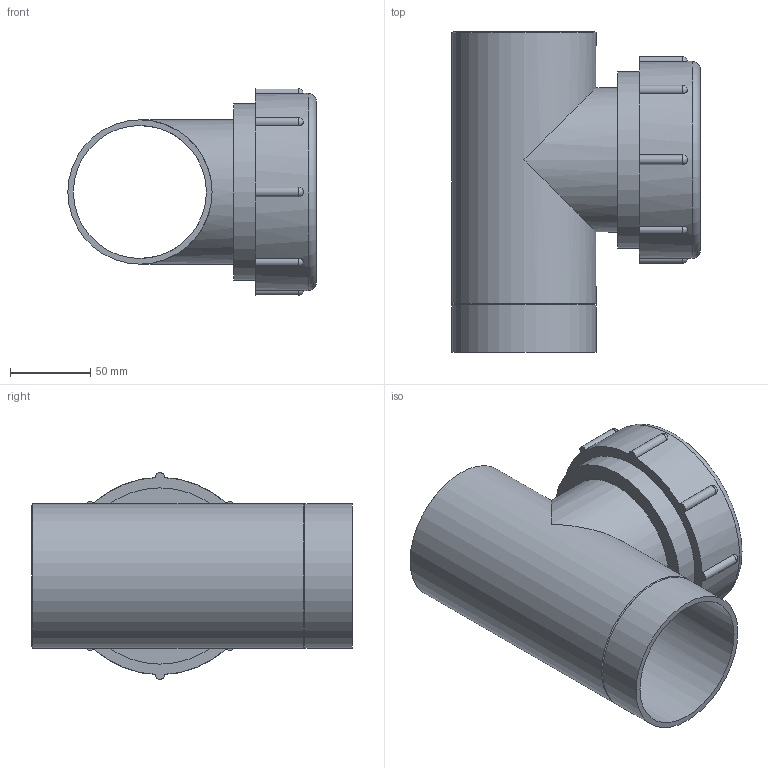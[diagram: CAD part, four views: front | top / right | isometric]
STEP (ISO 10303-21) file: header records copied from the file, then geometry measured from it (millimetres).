
FILE_DESCRIPTION(/* description */ (''),/* implementation_level */ '2;1');
FILE_NAME(/* name */ 'Z:\Geberit\Export\NewStep\366451.stp',/* time_stamp */ '2014-04-02T07:54:13+02:00',/* author */ ('Marco'),/* organization */ (''),/* preprocessor_version */ 'ST-DEVELOPER v15.2',/* originating_system */ 'Autodesk Inventor 2014',/* authorisation */ '');
FILE_SCHEMA (('AUTOMOTIVE_DESIGN { 1 0 10303 214 3 1 1 }'));
Length unit declared in the file: millimetre
Products named in the file (3): 853718; 853893; 366451
Bounding box: 155 x 200 x 128.98 mm (x, y, z)
Volume: 527251.7 mm3; surface area: 193646.3 mm2
Topology: 2 solids, 2 shells, 39 faces, 106 edges, 67 vertices
Faces by surface type: cylinder 18, plane 9, sphere 8, cone 3, torus 1
Full cylindrical faces by diameter (mm): 83 x2, 90 x4, 91 x1, 110 x2, 123 x1
Entity records: 1349 total; most frequent: CARTESIAN_POINT 364, DIRECTION 200, ORIENTED_EDGE 160, AXIS2_PLACEMENT_3D 92, EDGE_CURVE 80, VERTEX_POINT 64, EDGE_LOOP 62, CIRCLE 44
